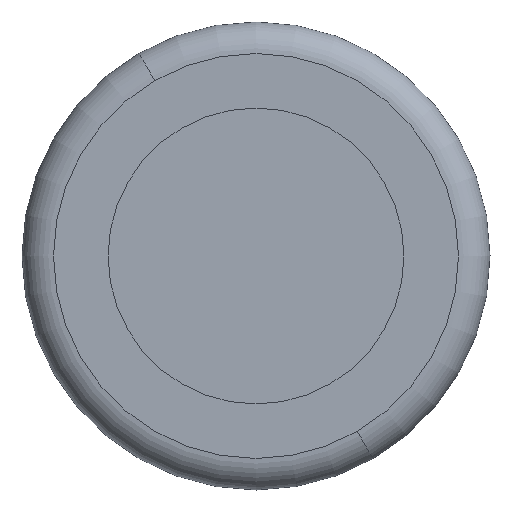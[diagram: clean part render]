
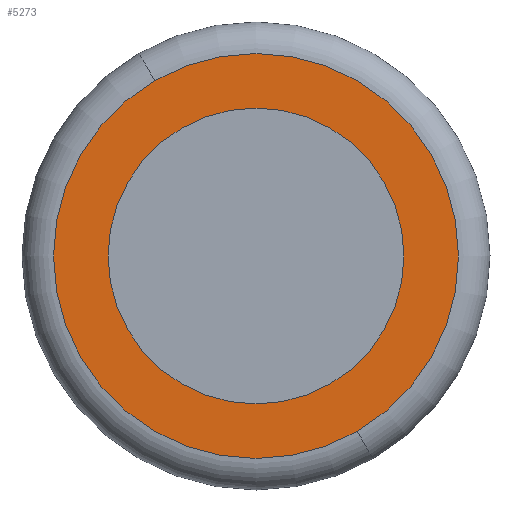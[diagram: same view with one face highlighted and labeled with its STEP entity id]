
A CAD part, front view. The second image highlights one B-rep face of the part: STEP entity #5273.
In plain terms, the highlighted planar face has unit normal (0, -1, 0) as drawn and (0, 0, -1) by its records, which use the part's own axes.
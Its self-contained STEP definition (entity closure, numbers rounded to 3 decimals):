
#9 = CARTESIAN_POINT ( 'NONE',  ( 205., 0., -34.496 ) ) ;
#44 = CARTESIAN_POINT ( 'NONE',  ( 0., 0., -34.496 ) ) ;
#286 = AXIS2_PLACEMENT_3D ( 'NONE', #44, #3949, #1578 ) ;
#289 = VERTEX_POINT ( 'NONE', #9 ) ;
#312 = CIRCLE ( 'NONE', #2804, 280.582 ) ;
#369 = ORIENTED_EDGE ( 'NONE', *, *, #4280, .T. ) ;
#625 = DIRECTION ( 'NONE',  ( 0., 0., -1. ) ) ;
#706 = AXIS2_PLACEMENT_3D ( 'NONE', #775, #3553, #5148 ) ;
#726 = VERTEX_POINT ( 'NONE', #1283 ) ;
#775 = CARTESIAN_POINT ( 'NONE',  ( 0., 0., -34.496 ) ) ;
#1086 = FACE_BOUND ( 'NONE', #2347, .T. ) ;
#1283 = CARTESIAN_POINT ( 'NONE',  ( -280.582, 0., -34.496 ) ) ;
#1365 = CARTESIAN_POINT ( 'NONE',  ( 280.582, 0., -34.496 ) ) ;
#1389 = AXIS2_PLACEMENT_3D ( 'NONE', #3265, #3207, #3805 ) ;
#1527 = ORIENTED_EDGE ( 'NONE', *, *, #2963, .T. ) ;
#1578 = DIRECTION ( 'NONE',  ( 1., 0., 0. ) ) ;
#1639 = VERTEX_POINT ( 'NONE', #5818 ) ;
#1917 = CIRCLE ( 'NONE', #706, 205. ) ;
#1962 = EDGE_CURVE ( 'NONE', #289, #1639, #1917, .T. ) ;
#2079 = CARTESIAN_POINT ( 'NONE',  ( -280.582, 0., -34.496 ) ) ;
#2347 = EDGE_LOOP ( 'NONE', ( #2605, #2625 ) ) ;
#2414 = DIRECTION ( 'NONE',  ( 0., 0., -1. ) ) ;
#2522 = DIRECTION ( 'NONE',  ( -1., 0., 0. ) ) ;
#2605 = ORIENTED_EDGE ( 'NONE', *, *, #1962, .T. ) ;
#2625 = ORIENTED_EDGE ( 'NONE', *, *, #4360, .T. ) ;
#2804 = AXIS2_PLACEMENT_3D ( 'NONE', #5759, #2414, #5254 ) ;
#2882 = CIRCLE ( 'NONE', #286, 205. ) ;
#2963 = EDGE_CURVE ( 'NONE', #5958, #726, #312, .T. ) ;
#3101 = EDGE_LOOP ( 'NONE', ( #369, #1527 ) ) ;
#3190 = AXIS2_PLACEMENT_3D ( 'NONE', #2079, #625, #2522 ) ;
#3207 = DIRECTION ( 'NONE',  ( 0., 0., -1. ) ) ;
#3265 = CARTESIAN_POINT ( 'NONE',  ( 0., 0., -34.496 ) ) ;
#3553 = DIRECTION ( 'NONE',  ( 0., 0., 1. ) ) ;
#3575 = CIRCLE ( 'NONE', #1389, 280.582 ) ;
#3805 = DIRECTION ( 'NONE',  ( -1., 0., 0. ) ) ;
#3949 = DIRECTION ( 'NONE',  ( 0., 0., 1. ) ) ;
#4280 = EDGE_CURVE ( 'NONE', #726, #5958, #3575, .T. ) ;
#4360 = EDGE_CURVE ( 'NONE', #1639, #289, #2882, .T. ) ;
#4472 = PLANE ( 'NONE',  #3190 ) ;
#4922 = FACE_OUTER_BOUND ( 'NONE', #3101, .T. ) ;
#5148 = DIRECTION ( 'NONE',  ( 1., 0., 0. ) ) ;
#5254 = DIRECTION ( 'NONE',  ( -1., 0., 0. ) ) ;
#5273 = ADVANCED_FACE ( 'NONE', ( #1086, #4922 ), #4472, .T. ) ;
#5759 = CARTESIAN_POINT ( 'NONE',  ( 0., 0., -34.496 ) ) ;
#5818 = CARTESIAN_POINT ( 'NONE',  ( -205., 0., -34.496 ) ) ;
#5958 = VERTEX_POINT ( 'NONE', #1365 ) ;
